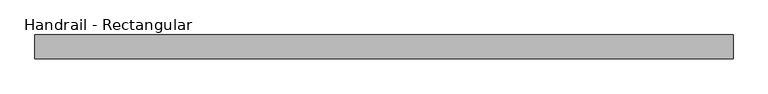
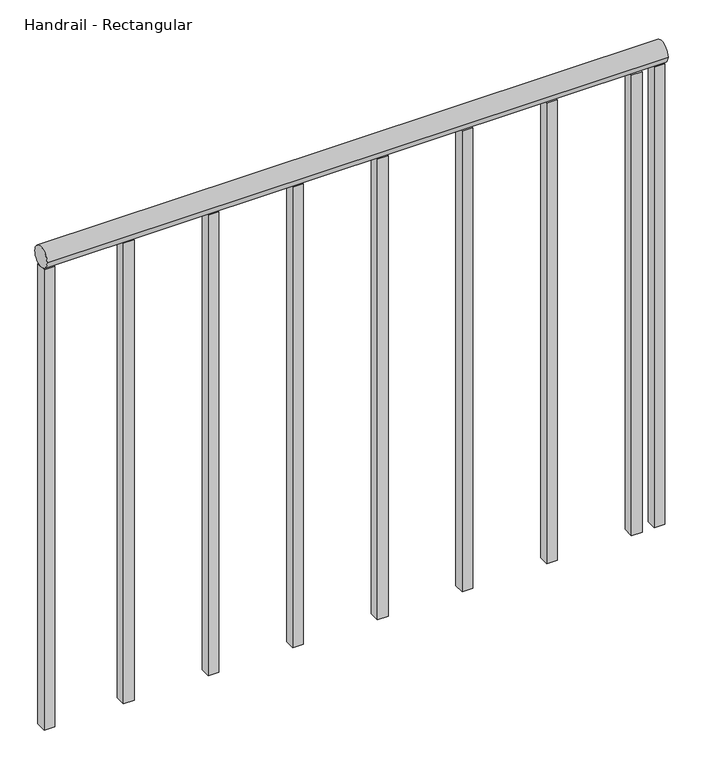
"""IFC4 building model written with IfcOpenShell, lengths in millimetres: railing geometry, Handrail - Rectangular."""

from ifc_helpers import new_model, si_unit, point, frame, frame_2d, origin, place, context, project, spatial, polyline, circle_curve, trimmed, segment, composite_curve, outline, extrude, source, transform, mapped, element, save


def handrail_rectangular_7f64f3ec(model_context):
    return source(origin(), model_context, "Body", "SweptSolid", [
        extrude(outline(composite_curve([segment(trimmed(circle_curve(frame_2d((4375.6316867, 3943.35)), 19.05), [point((4356.5816867, 3943.35))], [point((4394.6816867, 3943.35))], False, "CARTESIAN"), True, "CONTINUOUS"), segment(trimmed(circle_curve(frame_2d((4375.6316867, 3943.35)), 19.05), [point((4394.6816867, 3943.35))], [point((4356.5816867, 3943.35))], False, "CARTESIAN"), True, "CONTINUOUS")], self_intersect=False)), frame((-31964.2839563, 0.0, 0.0), z_axis=(1.0, 0.0, 0.0), x_axis=(0.0, 1.0, 0.0)), (0.0, 0.0, 1.0), 1117.6),
        extrude(outline(polyline([(-30907.0089563, 4385.1566867), (-30887.9589563, 4385.1566867), (-30887.9589563, 4366.1066867), (-30907.0089563, 4366.1066867), (-30907.0089563, 4385.1566867)])), frame((0.0, 0.0, 3048.0), z_axis=(0.0, 0.0, 1.0), x_axis=(1.0, 0.0, 0.0)), (0.0, 0.0, 1.0), 876.3),
        extrude(outline(polyline([(-31059.4089563, 4385.1566867), (-31040.3589563, 4385.1566867), (-31040.3589563, 4366.1066867), (-31059.4089563, 4366.1066867), (-31059.4089563, 4385.1566867)])), frame((0.0, 0.0, 3048.0), z_axis=(0.0, 0.0, 1.0), x_axis=(1.0, 0.0, 0.0)), (0.0, 0.0, 1.0), 876.3),
        extrude(outline(polyline([(-31211.8089563, 4385.1566867), (-31192.7589563, 4385.1566867), (-31192.7589563, 4366.1066867), (-31211.8089563, 4366.1066867), (-31211.8089563, 4385.1566867)])), frame((0.0, 0.0, 3048.0), z_axis=(0.0, 0.0, 1.0), x_axis=(1.0, 0.0, 0.0)), (0.0, 0.0, 1.0), 876.3),
        extrude(outline(polyline([(-31364.2089563, 4385.1566867), (-31345.1589563, 4385.1566867), (-31345.1589563, 4366.1066867), (-31364.2089563, 4366.1066867), (-31364.2089563, 4385.1566867)])), frame((0.0, 0.0, 3048.0), z_axis=(0.0, 0.0, 1.0), x_axis=(1.0, 0.0, 0.0)), (0.0, 0.0, 1.0), 876.3),
        extrude(outline(polyline([(-31516.6089563, 4385.1566867), (-31497.5589563, 4385.1566867), (-31497.5589563, 4366.1066867), (-31516.6089563, 4366.1066867), (-31516.6089563, 4385.1566867)])), frame((0.0, 0.0, 3048.0), z_axis=(0.0, 0.0, 1.0), x_axis=(1.0, 0.0, 0.0)), (0.0, 0.0, 1.0), 876.3),
        extrude(outline(polyline([(-31669.0089563, 4385.1566867), (-31649.9589563, 4385.1566867), (-31649.9589563, 4366.1066867), (-31669.0089563, 4366.1066867), (-31669.0089563, 4385.1566867)])), frame((0.0, 0.0, 3048.0), z_axis=(0.0, 0.0, 1.0), x_axis=(1.0, 0.0, 0.0)), (0.0, 0.0, 1.0), 876.3),
        extrude(outline(polyline([(-31821.4089563, 4385.1566867), (-31802.3589563, 4385.1566867), (-31802.3589563, 4366.1066867), (-31821.4089563, 4366.1066867), (-31821.4089563, 4385.1566867)])), frame((0.0, 0.0, 3048.0), z_axis=(0.0, 0.0, 1.0), x_axis=(1.0, 0.0, 0.0)), (0.0, 0.0, 1.0), 876.3),
        extrude(outline(polyline([(-30865.7339563, 4385.1566867), (-30846.6839563, 4385.1566867), (-30846.6839563, 4366.1066867), (-30865.7339563, 4366.1066867), (-30865.7339563, 4385.1566867)])), frame((0.0, 0.0, 3048.0), z_axis=(0.0, 0.0, 1.0), x_axis=(1.0, 0.0, 0.0)), (0.0, 0.0, 1.0), 876.3),
        extrude(outline(polyline([(-31964.2839563, 4385.1566867), (-31945.2339563, 4385.1566867), (-31945.2339563, 4366.1066867), (-31964.2839563, 4366.1066867), (-31964.2839563, 4385.1566867)])), frame((0.0, 0.0, 3048.0), z_axis=(0.0, 0.0, 1.0), x_axis=(1.0, 0.0, 0.0)), (0.0, 0.0, 1.0), 876.3),
    ])


if __name__ == "__main__":
    model = new_model("IFC4")
    model_context = context("Model", 3, world=origin())
    ifc_project = project(units=[si_unit("LENGTHUNIT", "METRE", prefix="MILLI")], contexts=[model_context])
    site = spatial("IfcSite", under=ifc_project)
    building = spatial("IfcBuilding", under=site)
    placement = place(None, origin())
    handrail_rectangular_shape = handrail_rectangular_7f64f3ec(model_context)
    element("IfcRailing", 1, ObjectType="Handrail - Rectangular", at=placement, inside=building, context=model_context, shape_type="MappedRepresentation", body=[
        mapped(handrail_rectangular_shape, transform((0.0, 0.0, 0.0), x_axis=(1.0, 0.0, 0.0), y_axis=(0.0, 1.0, 0.0), z_axis=(0.0, 0.0, 1.0))),
    ])
    save(model, "model.ifc")
